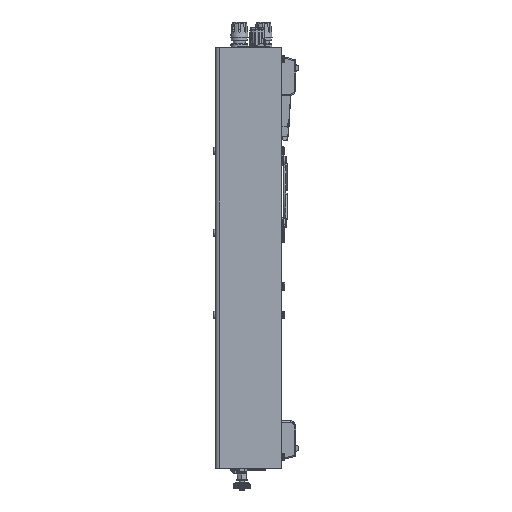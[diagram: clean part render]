
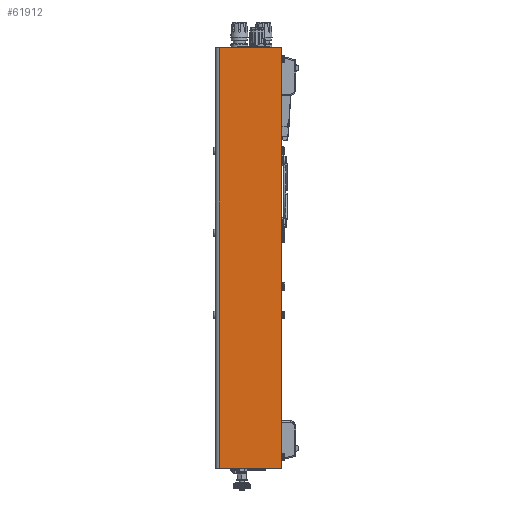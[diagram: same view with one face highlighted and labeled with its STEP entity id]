
A CAD part, left-side view. The second image highlights one B-rep face of the part: STEP entity #61912.
In plain terms, the highlighted planar face has unit normal (-1, 0, 0).
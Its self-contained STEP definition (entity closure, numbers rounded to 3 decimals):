
#3880=LINE('',#92819,#8592);
#3882=LINE('',#92829,#8594);
#3888=LINE('',#92845,#8600);
#3889=LINE('',#92846,#8601);
#8592=VECTOR('',#74255,1.88);
#8594=VECTOR('',#74267,10.);
#8600=VECTOR('',#74281,10.);
#8601=VECTOR('',#74282,10.);
#12583=PLANE('',#66135);
#14766=FACE_OUTER_BOUND('',#18504,.T.);
#18504=EDGE_LOOP('',(#43523,#43524,#43525,#43526));
#26478=VERTEX_POINT('',#92816);
#26479=VERTEX_POINT('',#92818);
#26481=VERTEX_POINT('',#92826);
#26482=VERTEX_POINT('',#92828);
#32887=EDGE_CURVE('',#26478,#26479,#3880,.T.);
#32893=EDGE_CURVE('',#26481,#26482,#3882,.T.);
#32901=EDGE_CURVE('',#26481,#26479,#3888,.T.);
#32902=EDGE_CURVE('',#26482,#26478,#3889,.T.);
#43523=ORIENTED_EDGE('',*,*,#32901,.T.);
#43524=ORIENTED_EDGE('',*,*,#32887,.F.);
#43525=ORIENTED_EDGE('',*,*,#32902,.F.);
#43526=ORIENTED_EDGE('',*,*,#32893,.F.);
#61912=ADVANCED_FACE('',(#14766),#12583,.F.);
#66135=AXIS2_PLACEMENT_3D('',#92844,#74279,#74280);
#74255=DIRECTION('',(0.,1.,0.));
#74267=DIRECTION('',(0.,-1.,0.));
#74279=DIRECTION('center_axis',(1.,0.,0.));
#74280=DIRECTION('ref_axis',(0.,0.,
1.));
#74281=DIRECTION('',(0.,0.,-1.));
#74282=DIRECTION('',(0.,0.,-1.));
#92816=CARTESIAN_POINT('',(-222.,0.,-333.));
#92818=CARTESIAN_POINT('',(-222.,49.,-333.));
#92819=CARTESIAN_POINT('',(-222.,54.906,-333.));
#92826=CARTESIAN_POINT('',(-222.,49.,0.));
#92828=CARTESIAN_POINT('',(-222.,0.,0.));
#92829=CARTESIAN_POINT('',(-222.,49.,0.));
#92844=CARTESIAN_POINT('Origin',(-222.,25.977,-166.5));
#92845=CARTESIAN_POINT('',(-222.,49.,-166.5));
#92846=CARTESIAN_POINT('',(-222.,0.,0.));
